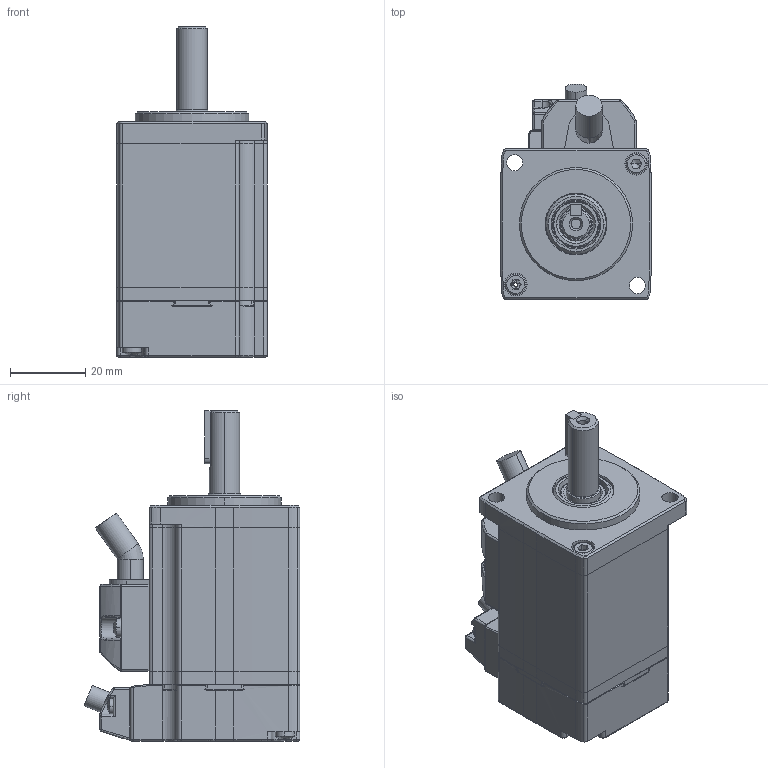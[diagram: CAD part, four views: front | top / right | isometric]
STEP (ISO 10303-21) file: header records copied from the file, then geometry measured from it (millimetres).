
FILE_DESCRIPTION (( 'STEP AP214' ), '1' );
FILE_NAME ('UMM-0000BA-B4.STEP', '2019-05-22T07:03:03', ( '' ), ( '' ), 'SwSTEP 2.0', 'SolidWorks 2017', '' );
FILE_SCHEMA (( 'AUTOMOTIVE_DESIGN' ));
Length unit declared in the file: millimetre
Products named in the file (1): UMM-0000BA-B4
Bounding box: 40 x 57.22 x 87.5 mm (x, y, z)
Surface area: 19614.1 mm2 (no closed solid volume)
Topology: 0 solids, 21 shells, 516 faces, 1478 edges, 956 vertices
Faces by surface type: cylinder 199, plane 185, bspline 89, cone 43
Entity records: 21434 total; most frequent: CARTESIAN_POINT 8877, ORIENTED_EDGE 2517, DIRECTION 2517, EDGE_CURVE 1461, VERTEX_POINT 956, AXIS2_PLACEMENT_3D 946, LINE 625, VECTOR 625
